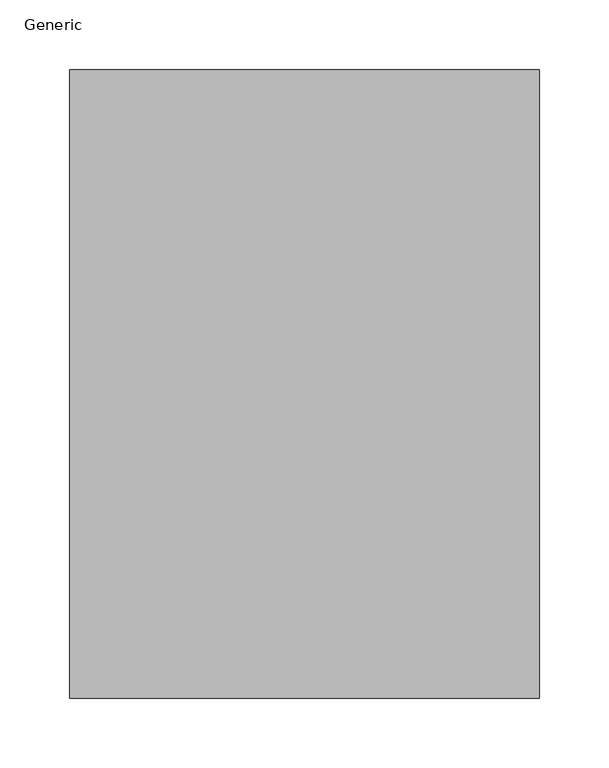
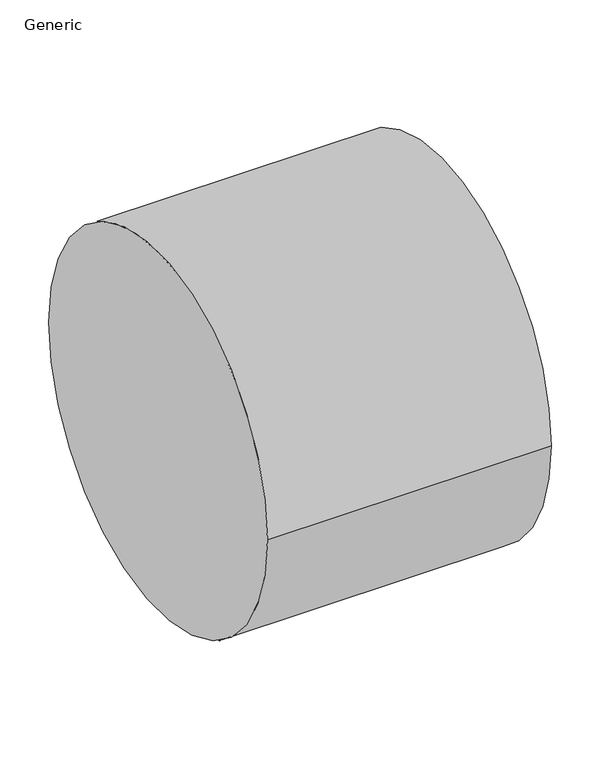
"""IFC4 building model written with IfcOpenShell, lengths in millimetres: proxy geometry, GM_Conduct : Generic."""

from ifc_helpers import new_model, si_unit, point, frame, frame_2d, origin, place, context, project, spatial, circle_curve, trimmed, segment, composite_curve, outline, extrude, source, transform, mapped, element, save


def generic_914f4e6b(model_context):
    return source(origin(), model_context, "Body", "SweptSolid", [
        extrude(outline(composite_curve([segment(trimmed(circle_curve(frame_2d((0.0, 144.5)), 225.0), [point((225.0, 144.5))], [point((-225.0, 144.5))], False, "CARTESIAN"), True, "CONTINUOUS"), segment(trimmed(circle_curve(frame_2d((0.0, 144.5)), 225.0), [point((-225.0, 144.5))], [point((225.0, 144.5))], False, "CARTESIAN"), True, "CONTINUOUS")], self_intersect=False)), frame((0.0, 0.0, 0.0), z_axis=(1.0, 0.0, 0.0), x_axis=(0.0, 1.0, 0.0)), (0.0, 0.0, 1.0), 336.5),
    ])


if __name__ == "__main__":
    model = new_model("IFC4")
    model_context = context("Model", 3, world=origin())
    ifc_project = project(units=[si_unit("LENGTHUNIT", "METRE", prefix="MILLI")], contexts=[model_context])
    site = spatial("IfcSite", under=ifc_project)
    building = spatial("IfcBuilding", under=site)
    placement = place(None, origin())
    generic_shape = generic_914f4e6b(model_context)
    element("IfcBuildingElementProxy", 1, Name="GM_Conduct : Generic", ObjectType="GM_Conduct : Generic", at=placement, inside=building, context=model_context, shape_type="MappedRepresentation", body=[
        mapped(generic_shape, transform((0.0, 0.0, 0.0), x_axis=(1.0, 0.0, 0.0), y_axis=(0.0, 1.0, 0.0), z_axis=(0.0, 0.0, 1.0))),
    ])
    save(model, "model.ifc")
